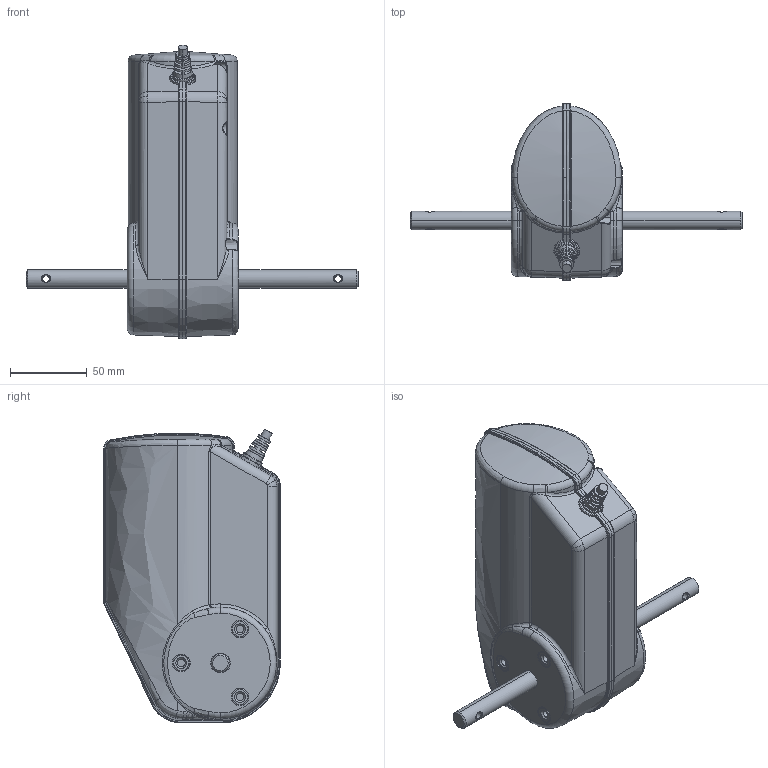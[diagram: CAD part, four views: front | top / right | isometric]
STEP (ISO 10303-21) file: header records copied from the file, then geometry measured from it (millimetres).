
FILE_DESCRIPTION (( 'STEP AP203' ), '1' );
FILE_NAME ('3D_TGM5.STEP', '2014-03-04T04:02:05', ( '' ), ( '' ), 'SwSTEP 2.0', 'SolidWorks 2010', '' );
FILE_SCHEMA (( 'CONFIG_CONTROL_DESIGN' ));
Length unit declared in the file: millimetre
Products named in the file (1): 3D_TGM5
Bounding box: 216 x 115 x 191.21 mm (x, y, z)
Surface area: 79205.6 mm2 (no closed solid volume)
Topology: 0 solids, 8 shells, 381 faces, 976 edges, 596 vertices
Faces by surface type: bspline 110, cylinder 93, plane 68, torus 60, cone 46, sphere 4
Entity records: 32419 total; most frequent: CARTESIAN_POINT 23739, ORIENTED_EDGE 1850, DIRECTION 1693, EDGE_CURVE 970, AXIS2_PLACEMENT_3D 709, VERTEX_POINT 596, CIRCLE 437, EDGE_LOOP 402
